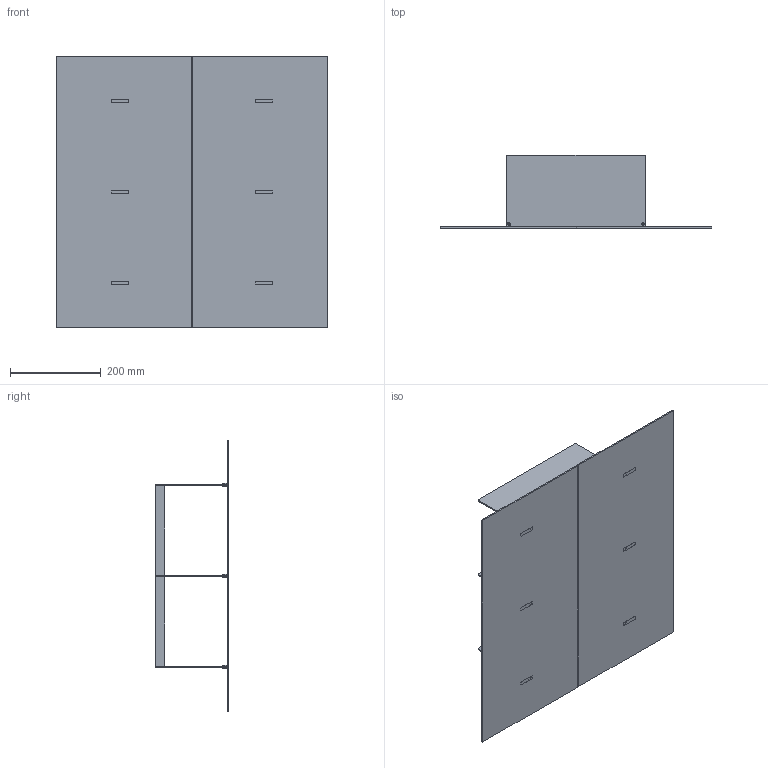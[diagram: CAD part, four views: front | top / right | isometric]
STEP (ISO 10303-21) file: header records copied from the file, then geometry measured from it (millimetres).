
FILE_DESCRIPTION(/* description */ (''),/* implementation_level */ '2;1');
FILE_NAME(/* name */ '251209_Sheet Cabinet_3D',/* time_stamp */ '2025-12-09T15:26:23+01:00',/* author */ (''),/* organization */ (''),/* preprocessor_version */ 'ST-DEVELOPER v16.5',/* originating_system */ 'Rhino 7.38',/* authorisation */ '');
FILE_SCHEMA (('CONFIG_CONTROL_DESIGN'));
Length unit declared in the file: millimetre
Products named in the file (1): Document
Bounding box: 596 x 160 x 596 mm (x, y, z)
Volume: 1807168 mm3; surface area: 1072019.2 mm2
Topology: 15 solids, 15 shells, 411 faces, 972 edges, 594 vertices
Faces by surface type: plane 181, cylinder 116, bspline 114
Entity records: 12033 total; most frequent: CARTESIAN_POINT 5649, ORIENTED_EDGE 1944, EDGE_CURVE 972, VERTEX_POINT 594, B_SPLINE_CURVE_WITH_KNOTS 504, EDGE_LOOP 468, ADVANCED_FACE 411, FACE_OUTER_BOUND 411
